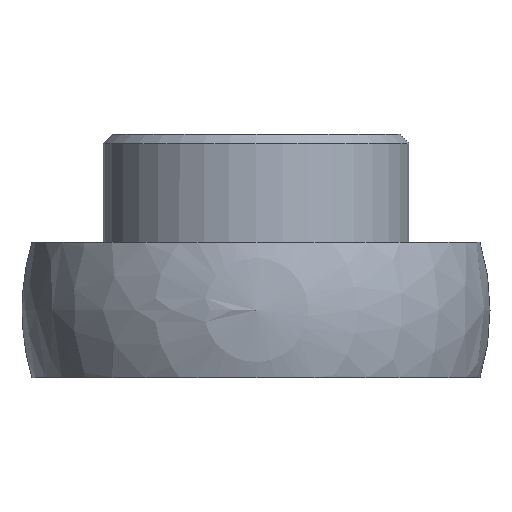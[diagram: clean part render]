
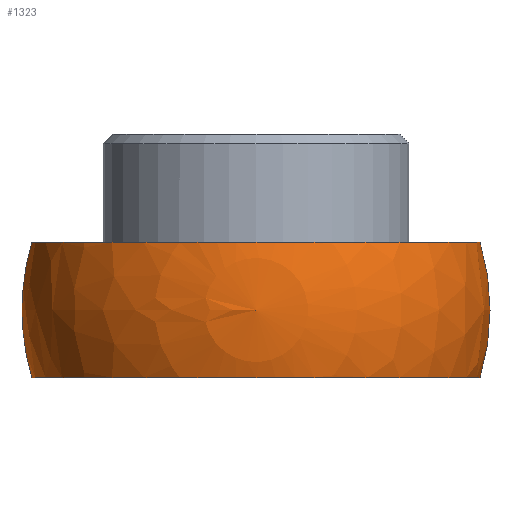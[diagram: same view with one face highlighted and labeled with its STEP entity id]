
A CAD part, front view. The second image highlights one B-rep face of the part: STEP entity #1323.
In plain terms, the highlighted spherical face has radius 26 mm.
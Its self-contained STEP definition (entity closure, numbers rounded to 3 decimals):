
#532 = DIRECTION ( 'NONE',  ( 0., 0., 1. ) ) ;
#533 = DIRECTION ( 'NONE',  ( 0., 1., 0. ) ) ;
#534 = CARTESIAN_POINT ( 'NONE',  ( 0., 0., 0. ) ) ;
#535 = AXIS2_PLACEMENT_3D ( 'NONE', #534, #533, #532 ) ;
#538 = CIRCLE ( 'NONE', #535, 26. ) ;
#628 = CARTESIAN_POINT ( 'NONE',  ( 24.895, 0., 7.5 ) ) ;
#631 = DIRECTION ( 'NONE',  ( 1., 0., 0. ) ) ;
#632 = DIRECTION ( 'NONE',  ( 0., -1., 0. ) ) ;
#634 = CARTESIAN_POINT ( 'NONE',  ( 0., 0., 0. ) ) ;
#635 = DIRECTION ( 'NONE',  ( 1., 0., 0. ) ) ;
#636 = DIRECTION ( 'NONE',  ( 0., 0., 1. ) ) ;
#637 = CARTESIAN_POINT ( 'NONE',  ( 0., 0., -7.5 ) ) ;
#641 = AXIS2_PLACEMENT_3D ( 'NONE', #634, #632, #631 ) ;
#642 = CIRCLE ( 'NONE', #649, 24.895 ) ;
#643 = DIRECTION ( 'NONE',  ( 1., 0., 0. ) ) ;
#644 = DIRECTION ( 'NONE',  ( 0., 0., 1. ) ) ;
#645 = CIRCLE ( 'NONE', #641, 26. ) ;
#646 = CARTESIAN_POINT ( 'NONE',  ( 24.895, 0., -7.5 ) ) ;
#649 = AXIS2_PLACEMENT_3D ( 'NONE', #637, #636, #635 ) ;
#650 = AXIS2_PLACEMENT_3D ( 'NONE', #702, #644, #643 ) ;
#653 = CARTESIAN_POINT ( 'NONE',  ( -24.895, 0., -7.5 ) ) ;
#664 = CIRCLE ( 'NONE', #650, 24.895 ) ;
#702 = CARTESIAN_POINT ( 'NONE',  ( 0., 0., 7.5 ) ) ;
#791 = FACE_OUTER_BOUND ( 'NONE', #1214, .T. ) ;
#793 = DIRECTION ( 'NONE',  ( -1., 0., 0. ) ) ;
#794 = CARTESIAN_POINT ( 'NONE',  ( -24.895, 0., 7.5 ) ) ;
#795 = AXIS2_PLACEMENT_3D ( 'NONE', #798, #797, #793 ) ;
#797 = DIRECTION ( 'NONE',  ( 0., -1., 0. ) ) ;
#798 = CARTESIAN_POINT ( 'NONE',  ( 0., 0., 0. ) ) ;
#847 = SPHERICAL_SURFACE ( 'NONE', #795, 26. ) ;
#1214 = EDGE_LOOP ( 'NONE', ( #1219, #1222, #1235, #1229 ) ) ;
#1217 = VERTEX_POINT ( 'NONE', #653 ) ;
#1218 = EDGE_CURVE ( 'NONE', #1319, #1228, #664, .T. ) ;
#1219 = ORIENTED_EDGE ( 'NONE', *, *, #1225, .T. ) ;
#1220 = VERTEX_POINT ( 'NONE', #646 ) ;
#1222 = ORIENTED_EDGE ( 'NONE', *, *, #1226, .T. ) ;
#1225 = EDGE_CURVE ( 'NONE', #1217, #1220, #642, .T. ) ;
#1226 = EDGE_CURVE ( 'NONE', #1220, #1228, #645, .T. ) ;
#1228 = VERTEX_POINT ( 'NONE', #628 ) ;
#1229 = ORIENTED_EDGE ( 'NONE', *, *, #1312, .F. ) ;
#1235 = ORIENTED_EDGE ( 'NONE', *, *, #1218, .F. ) ;
#1312 = EDGE_CURVE ( 'NONE', #1217, #1319, #538, .T. ) ;
#1319 = VERTEX_POINT ( 'NONE', #794 ) ;
#1323 = ADVANCED_FACE ( 'NONE', ( #791 ), #847, .T. ) ;
